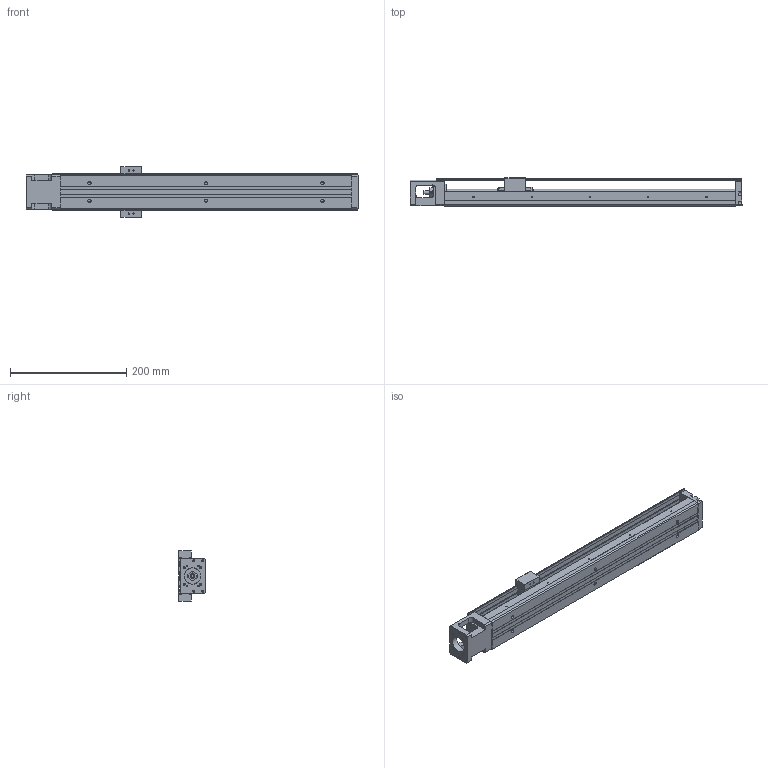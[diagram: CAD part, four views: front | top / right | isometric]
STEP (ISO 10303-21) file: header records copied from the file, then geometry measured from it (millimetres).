
FILE_DESCRIPTION(/* description */ (''),/* implementation_level */ '2;1');
FILE_NAME(/* name */ '33S-500C.stp',/* time_stamp */ '2016-12-20T13:48:12+08:00',/* author */ (''),/* organization */ (''),/* preprocessor_version */ 'ST-DEVELOPER v11',/* originating_system */ 'SIEMENS UGS NX 6.0',/* authorisation */ '');
FILE_SCHEMA (('AUTOMOTIVE_DESIGN { 1 0 10303 214 1 1 1 1 }'));
Length unit declared in the file: millimetre
Products named in the file (1): model4
Bounding box: 570 x 47.95 x 86 mm (x, y, z)
Volume: 698820.4 mm3; surface area: 251222.2 mm2
Topology: 7 solids, 16 shells, 700 faces, 1772 edges, 1170 vertices
Faces by surface type: plane 420, cylinder 195, bspline 31, cone 22, extrusion 21, torus 9, revolution 2
Full cylindrical faces by diameter (mm): 1.6 x3, 1.65 x4, 2.15 x9, 2.42 x4, 2.45 x8, 2.5 x16, 3.2 x4, 3.3 x4, 3.4 x4, 3.5 x10, 3.969 x1, 4 x4, 4.001 x1, 4.135 x2, 4.2 x2, 5.5 x6, 6 x5, 7.6 x1, 8 x5, 9.5 x6, 10.72 x3, 11.8 x2, 12 x6, 12.8 x1, 13 x2, 14 x1, 17.38 x3, 21.5 x1, 22 x2, 28 x1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
Entity records: 36137 total; most frequent: CARTESIAN_POINT 16440, DIRECTION 3176, ORIENTED_EDGE 3082, EDGE_CURVE 1541, AXIS2_PLACEMENT_3D 1109, VERTEX_POINT 1093, EDGE_LOOP 986, VECTOR 956
